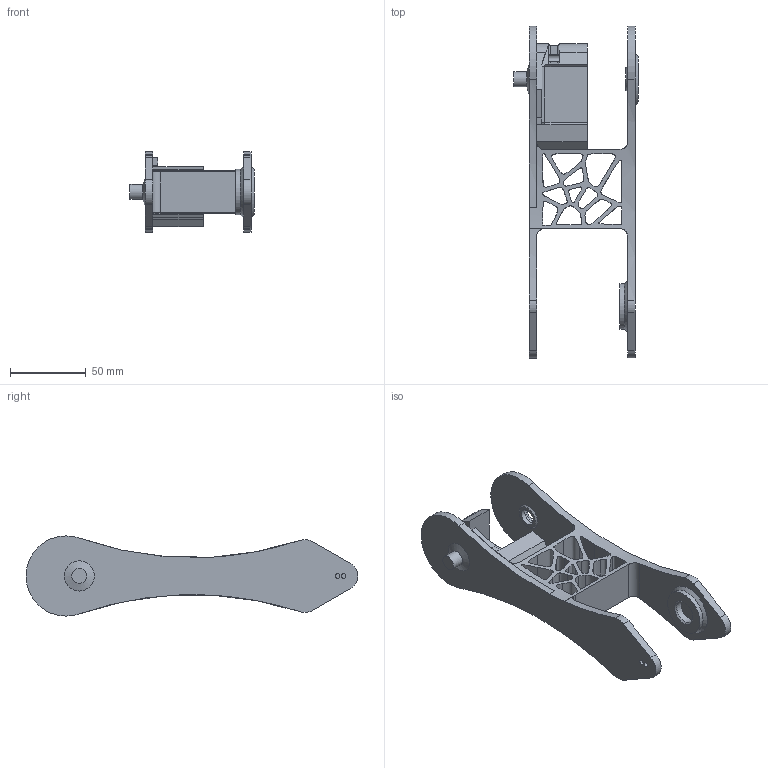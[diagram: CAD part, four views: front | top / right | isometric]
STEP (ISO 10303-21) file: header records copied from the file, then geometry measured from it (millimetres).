
FILE_DESCRIPTION(/* description */ (''),/* implementation_level */ '2;1');
FILE_NAME(/* name */ 'left_mid.step',/* time_stamp */ '2026-06-13T15:32:15-06:00',/* author */ (''),/* organization */ (''),/* preprocessor_version */ 'ST-DEVELOPER v20.1',/* originating_system */ 'Autodesk Translation Framework v15.8.0.0',/* authorisation */ '');
FILE_SCHEMA (('AUTOMOTIVE_DESIGN { 1 0 10303 214 3 1 1 }'));
Length unit declared in the file: millimetre
Products named in the file (1): left_mid
Bounding box: 82 x 219.16 x 52.93 mm (x, y, z)
Volume: 149526.4 mm3; surface area: 63278.2 mm2
Topology: 1 solids, 1 shells, 190 faces, 504 edges, 330 vertices
Faces by surface type: plane 80, cylinder 54, bspline 50, cone 6
Full cylindrical faces by diameter (mm): 3.1 x2, 4.5 x5, 6.3 x4, 9.9 x1, 11 x1, 15.1 x2, 30 x1
Entity records: 7445 total; most frequent: CARTESIAN_POINT 2941, ORIENTED_EDGE 1008, DIRECTION 789, EDGE_CURVE 504, VERTEX_POINT 330, AXIS2_PLACEMENT_3D 270, LINE 249, VECTOR 249
